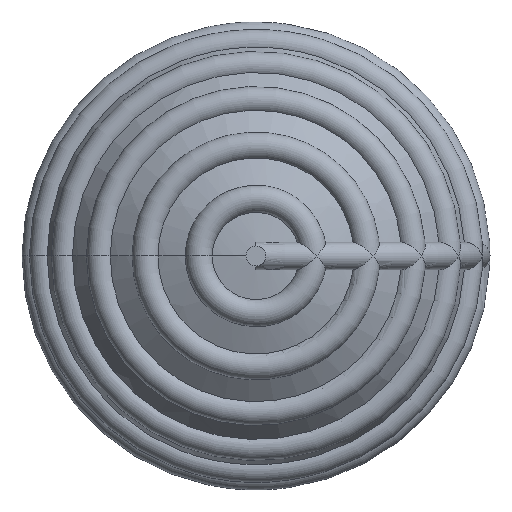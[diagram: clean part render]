
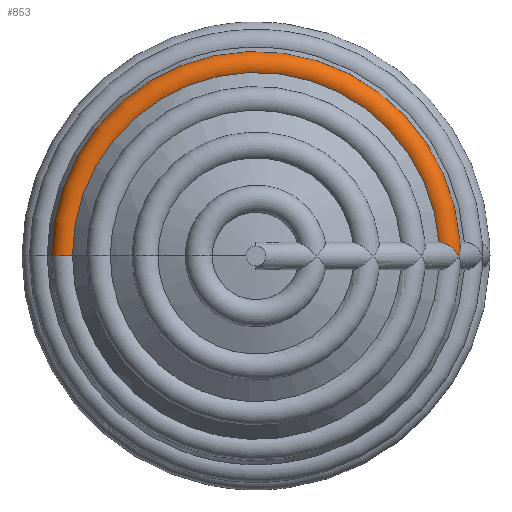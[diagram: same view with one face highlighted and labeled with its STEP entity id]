
A CAD part, front view. The second image highlights one B-rep face of the part: STEP entity #853.
In plain terms, the highlighted toroidal (fillet/blend) face has major radius 69.417 mm and minor radius 5 mm.
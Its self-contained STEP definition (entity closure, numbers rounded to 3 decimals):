
#15 = CARTESIAN_POINT ( 'NONE',  ( 66.596, -44.328, 4.998 ) ) ;
#50 = CARTESIAN_POINT ( 'NONE',  ( 74.012, -42.067, 0.576 ) ) ;
#94 = DIRECTION ( 'NONE',  ( -1., 0., 0. ) ) ;
#109 = B_SPLINE_CURVE_WITH_KNOTS ( 'NONE', 3,
 ( #691, #1165, #1403, #2334, #2572, #934, #1670, #2855, #1900, #2364, #2866, #751, #1908, #2397, #960, #2844, #2372, #50, #2825, #489 ),
 .UNSPECIFIED., .F., .F.,
 ( 4, 2, 2, 2, 2, 2, 2, 2, 2, 4 ),
 ( 0., 0.001, 0.002, 0.003, 0.004, 0.005, 0.006, 0.007, 0.009, 0.01 ),
 .UNSPECIFIED. ) ;
#170 = CARTESIAN_POINT ( 'NONE',  ( 71.607, -35.672, 4.998 ) ) ;
#176 = ORIENTED_EDGE ( 'NONE', *, *, #2676, .F. ) ;
#186 = ORIENTED_EDGE ( 'NONE', *, *, #1131, .F. ) ;
#201 = VERTEX_POINT ( 'NONE', #1362 ) ;
#250 = CARTESIAN_POINT ( 'NONE',  ( 0., -35.672, 0. ) ) ;
#322 = B_SPLINE_CURVE_WITH_KNOTS ( 'NONE', 3,
 ( #627, #2510, #1361, #2719, #860, #2750, #1329, #1832, #402, #2296, #2956, #891, #1563, #2044, #373, #2034 ),
 .UNSPECIFIED., .F., .F.,
 ( 4, 2, 2, 2, 2, 2, 2, 4 ),
 ( 0., 0.002, 0.005, 0.006, 0.007, 0.007, 0.009, 0.01 ),
 .UNSPECIFIED. ) ;
#373 = CARTESIAN_POINT ( 'NONE',  ( 66.946, -44.545, 5.01 ) ) ;
#402 = CARTESIAN_POINT ( 'NONE',  ( 69.596, -45.072, 4.173 ) ) ;
#448 = VERTEX_POINT ( 'NONE', #2873 ) ;
#489 = CARTESIAN_POINT ( 'NONE',  ( 73.747, -42.578, 0. ) ) ;
#497 = DIRECTION ( 'NONE',  ( 0., 1., 0. ) ) ;
#522 = VERTEX_POINT ( 'NONE', #757 ) ;
#545 = CIRCLE ( 'NONE', #2180, 66.783 ) ;
#627 = CARTESIAN_POINT ( 'NONE',  ( 73.747, -42.578, 0. ) ) ;
#691 = CARTESIAN_POINT ( 'NONE',  ( 71.607, -35.672, 4.998 ) ) ;
#751 = CARTESIAN_POINT ( 'NONE',  ( 74.322, -39.421, 3.052 ) ) ;
#757 = CARTESIAN_POINT ( 'NONE',  ( 73.747, -42.578, 0. ) ) ;
#853 = ADVANCED_FACE ( 'NONE', ( #2250 ), #2799, .T. ) ;
#860 = CARTESIAN_POINT ( 'NONE',  ( 71.578, -44.607, 2.815 ) ) ;
#891 = CARTESIAN_POINT ( 'NONE',  ( 68.473, -45.03, 4.681 ) ) ;
#934 = CARTESIAN_POINT ( 'NONE',  ( 73.494, -37.376, 4.446 ) ) ;
#960 = CARTESIAN_POINT ( 'NONE',  ( 74.367, -40.651, 1.991 ) ) ;
#1000 = ORIENTED_EDGE ( 'NONE', *, *, #2481, .F. ) ;
#1131 = EDGE_CURVE ( 'NONE', #2052, #522, #109, .T. ) ;
#1165 = CARTESIAN_POINT ( 'NONE',  ( 71.969, -35.866, 5.01 ) ) ;
#1183 = AXIS2_PLACEMENT_3D ( 'NONE', #250, #497, #2142 ) ;
#1329 = CARTESIAN_POINT ( 'NONE',  ( 70.295, -44.993, 3.767 ) ) ;
#1361 = CARTESIAN_POINT ( 'NONE',  ( 73.072, -43.534, 1.162 ) ) ;
#1362 = CARTESIAN_POINT ( 'NONE',  ( -66.783, -44.328, 0. ) ) ;
#1368 = CIRCLE ( 'NONE', #1183, 71.781 ) ;
#1403 = CARTESIAN_POINT ( 'NONE',  ( 72.306, -36.104, 4.971 ) ) ;
#1416 = ORIENTED_EDGE ( 'NONE', *, *, #2077, .F. ) ;
#1563 = CARTESIAN_POINT ( 'NONE',  ( 68.09, -44.958, 4.806 ) ) ;
#1619 = CARTESIAN_POINT ( 'NONE',  ( -69.417, -40.078, 0. ) ) ;
#1670 = CARTESIAN_POINT ( 'NONE',  ( 73.594, -37.53, 4.36 ) ) ;
#1716 = EDGE_LOOP ( 'NONE', ( #1416, #2568, #1000, #186, #176 ) ) ;
#1725 = CARTESIAN_POINT ( 'NONE',  ( 0., -44.328, 0. ) ) ;
#1832 = CARTESIAN_POINT ( 'NONE',  ( 69.773, -45.058, 4.076 ) ) ;
#1844 = DIRECTION ( 'NONE',  ( 0., 0., -1. ) ) ;
#1900 = CARTESIAN_POINT ( 'NONE',  ( 73.856, -38.001, 4.074 ) ) ;
#1908 = CARTESIAN_POINT ( 'NONE',  ( 74.363, -39.734, 2.797 ) ) ;
#1915 = CIRCLE ( 'NONE', #2006, 5. ) ;
#1917 = EDGE_CURVE ( 'NONE', #201, #2744, #545, .T. ) ;
#1950 = DIRECTION ( 'NONE',  ( -1., 0., 0. ) ) ;
#1964 = DIRECTION ( 'NONE',  ( 0., 1., 0. ) ) ;
#2006 = AXIS2_PLACEMENT_3D ( 'NONE', #1619, #1844, #2554 ) ;
#2034 = CARTESIAN_POINT ( 'NONE',  ( 66.596, -44.328, 4.998 ) ) ;
#2044 = CARTESIAN_POINT ( 'NONE',  ( 67.316, -44.713, 4.973 ) ) ;
#2052 = VERTEX_POINT ( 'NONE', #170 ) ;
#2077 = EDGE_CURVE ( 'NONE', #201, #448, #1915, .T. ) ;
#2142 = DIRECTION ( 'NONE',  ( -1., 0., 0. ) ) ;
#2180 = AXIS2_PLACEMENT_3D ( 'NONE', #1725, #2237, #94 ) ;
#2185 = CARTESIAN_POINT ( 'NONE',  ( 0., -40.078, 0. ) ) ;
#2237 = DIRECTION ( 'NONE',  ( 0., 1., 0. ) ) ;
#2250 = FACE_OUTER_BOUND ( 'NONE', #1716, .T. ) ;
#2296 = CARTESIAN_POINT ( 'NONE',  ( 69.231, -45.081, 4.357 ) ) ;
#2334 = CARTESIAN_POINT ( 'NONE',  ( 72.9, -36.629, 4.807 ) ) ;
#2364 = CARTESIAN_POINT ( 'NONE',  ( 74.072, -38.479, 3.76 ) ) ;
#2372 = CARTESIAN_POINT ( 'NONE',  ( 74.205, -41.521, 1.149 ) ) ;
#2397 = CARTESIAN_POINT ( 'NONE',  ( 74.385, -40.35, 2.265 ) ) ;
#2426 = AXIS2_PLACEMENT_3D ( 'NONE', #2185, #1964, #1950 ) ;
#2481 = EDGE_CURVE ( 'NONE', #522, #2744, #322, .T. ) ;
#2510 = CARTESIAN_POINT ( 'NONE',  ( 73.457, -43.082, 0.582 ) ) ;
#2554 = DIRECTION ( 'NONE',  ( -1., 0., 0. ) ) ;
#2568 = ORIENTED_EDGE ( 'NONE', *, *, #1917, .T. ) ;
#2572 = CARTESIAN_POINT ( 'NONE',  ( 73.164, -36.923, 4.681 ) ) ;
#2676 = EDGE_CURVE ( 'NONE', #448, #2052, #1368, .T. ) ;
#2719 = CARTESIAN_POINT ( 'NONE',  ( 72.132, -44.297, 2.279 ) ) ;
#2744 = VERTEX_POINT ( 'NONE', #15 ) ;
#2750 = CARTESIAN_POINT ( 'NONE',  ( 70.628, -44.917, 3.541 ) ) ;
#2799 = TOROIDAL_SURFACE ( 'NONE', #2426, 69.417, 5. ) ;
#2825 = CARTESIAN_POINT ( 'NONE',  ( 73.892, -42.327, 0.289 ) ) ;
#2844 = CARTESIAN_POINT ( 'NONE',  ( 74.277, -41.237, 1.432 ) ) ;
#2855 = CARTESIAN_POINT ( 'NONE',  ( 73.775, -37.842, 4.174 ) ) ;
#2866 = CARTESIAN_POINT ( 'NONE',  ( 74.176, -38.794, 3.533 ) ) ;
#2873 = CARTESIAN_POINT ( 'NONE',  ( -71.781, -35.672, 0. ) ) ;
#2956 = CARTESIAN_POINT ( 'NONE',  ( 69.042, -45.076, 4.444 ) ) ;
